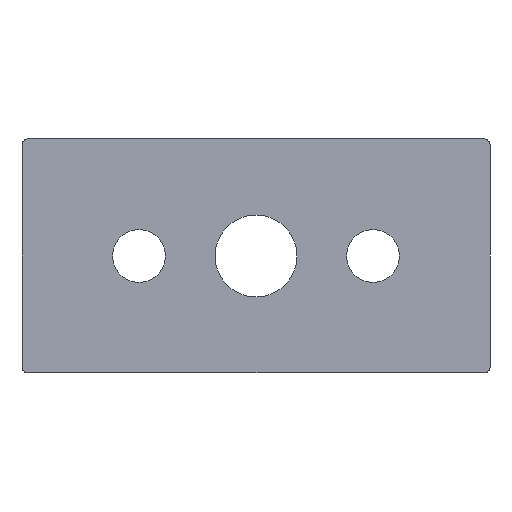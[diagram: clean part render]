
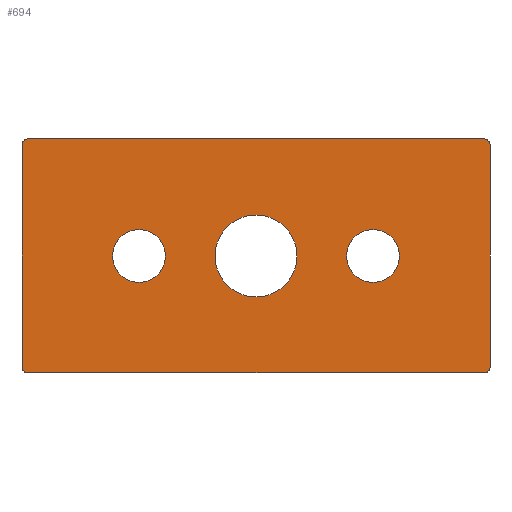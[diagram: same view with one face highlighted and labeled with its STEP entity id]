
A CAD part, front view. The second image highlights one B-rep face of the part: STEP entity #694.
In plain terms, the highlighted planar face has unit normal (0, -1, 0).
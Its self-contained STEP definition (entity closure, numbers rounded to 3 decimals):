
#16 = DIRECTION ( 'NONE',  ( 0., 1., 0. ) ) ;
#17 = EDGE_LOOP ( 'NONE', ( #726, #235 ) ) ;
#29 = DIRECTION ( 'NONE',  ( 0., 1., 0. ) ) ;
#30 = DIRECTION ( 'NONE',  ( 0., 0., -1. ) ) ;
#31 = DIRECTION ( 'NONE',  ( 0., 0., 1. ) ) ;
#44 = CARTESIAN_POINT ( 'NONE',  ( 0., 0., 0. ) ) ;
#46 = EDGE_CURVE ( 'NONE', #237, #114, #626, .T. ) ;
#54 = VERTEX_POINT ( 'NONE', #522 ) ;
#57 = CIRCLE ( 'NONE', #754, 1. ) ;
#65 = EDGE_CURVE ( 'NONE', #678, #580, #161, .T. ) ;
#67 = CARTESIAN_POINT ( 'NONE',  ( -39., 0., 19. ) ) ;
#72 = DIRECTION ( 'NONE',  ( 0., 0., -1. ) ) ;
#74 = DIRECTION ( 'NONE',  ( 0., 0., -1. ) ) ;
#76 = DIRECTION ( 'NONE',  ( 0., -1., 0. ) ) ;
#77 = AXIS2_PLACEMENT_3D ( 'NONE', #44, #76, #72 ) ;
#82 = CARTESIAN_POINT ( 'NONE',  ( -20., 0., 0. ) ) ;
#85 = DIRECTION ( 'NONE',  ( 0., -1., 0. ) ) ;
#97 = DIRECTION ( 'NONE',  ( 0., 0., -1. ) ) ;
#102 = DIRECTION ( 'NONE',  ( 0., 1., 0. ) ) ;
#110 = CARTESIAN_POINT ( 'NONE',  ( 39., 0., -19. ) ) ;
#114 = VERTEX_POINT ( 'NONE', #647 ) ;
#124 = ORIENTED_EDGE ( 'NONE', *, *, #637, .F. ) ;
#129 = CARTESIAN_POINT ( 'NONE',  ( 20., 0., -4.5 ) ) ;
#133 = AXIS2_PLACEMENT_3D ( 'NONE', #110, #326, #365 ) ;
#137 = EDGE_CURVE ( 'NONE', #666, #352, #291, .T. ) ;
#148 = CARTESIAN_POINT ( 'NONE',  ( 0., 0., 0. ) ) ;
#150 = PLANE ( 'NONE',  #288 ) ;
#161 = CIRCLE ( 'NONE', #595, 7. ) ;
#170 = ORIENTED_EDGE ( 'NONE', *, *, #236, .T. ) ;
#191 = VERTEX_POINT ( 'NONE', #720 ) ;
#194 = CARTESIAN_POINT ( 'NONE',  ( -40., 0., -19. ) ) ;
#196 = ORIENTED_EDGE ( 'NONE', *, *, #424, .F. ) ;
#199 = FACE_OUTER_BOUND ( 'NONE', #407, .T. ) ;
#204 = EDGE_CURVE ( 'NONE', #580, #678, #244, .T. ) ;
#214 = DIRECTION ( 'NONE',  ( -1., 0., 0. ) ) ;
#224 = DIRECTION ( 'NONE',  ( 0., -1., 0. ) ) ;
#227 = FACE_BOUND ( 'NONE', #252, .T. ) ;
#235 = ORIENTED_EDGE ( 'NONE', *, *, #137, .T. ) ;
#236 = EDGE_CURVE ( 'NONE', #426, #409, #519, .T. ) ;
#237 = VERTEX_POINT ( 'NONE', #194 ) ;
#244 = CIRCLE ( 'NONE', #77, 7. ) ;
#252 = EDGE_LOOP ( 'NONE', ( #429, #284 ) ) ;
#253 = CARTESIAN_POINT ( 'NONE',  ( 40., 0., -19. ) ) ;
#256 = CIRCLE ( 'NONE', #589, 1. ) ;
#262 = DIRECTION ( 'NONE',  ( 0., 0., -1. ) ) ;
#284 = ORIENTED_EDGE ( 'NONE', *, *, #466, .T. ) ;
#285 = CARTESIAN_POINT ( 'NONE',  ( 0., 0., 0. ) ) ;
#288 = AXIS2_PLACEMENT_3D ( 'NONE', #148, #85, #74 ) ;
#291 = CIRCLE ( 'NONE', #668, 4.5 ) ;
#312 = DIRECTION ( 'NONE',  ( 0., 0., 1. ) ) ;
#318 = DIRECTION ( 'NONE',  ( 0., 1., 0. ) ) ;
#319 = CARTESIAN_POINT ( 'NONE',  ( -20., 0., 0. ) ) ;
#326 = DIRECTION ( 'NONE',  ( 0., -1., 0. ) ) ;
#330 = CARTESIAN_POINT ( 'NONE',  ( -39., 0., -19. ) ) ;
#335 = CARTESIAN_POINT ( 'NONE',  ( -20., 0., -4.5 ) ) ;
#341 = CARTESIAN_POINT ( 'NONE',  ( 0., 0., -7. ) ) ;
#342 = VERTEX_POINT ( 'NONE', #129 ) ;
#347 = ORIENTED_EDGE ( 'NONE', *, *, #504, .T. ) ;
#352 = VERTEX_POINT ( 'NONE', #670 ) ;
#364 = EDGE_LOOP ( 'NONE', ( #724, #449 ) ) ;
#365 = DIRECTION ( 'NONE',  ( 0., 0., -1. ) ) ;
#367 = DIRECTION ( 'NONE',  ( 0., 0., -1. ) ) ;
#371 = DIRECTION ( 'NONE',  ( 0., -1., 0. ) ) ;
#376 = DIRECTION ( 'NONE',  ( 0., 0., 1. ) ) ;
#378 = FACE_BOUND ( 'NONE', #17, .T. ) ;
#380 = DIRECTION ( 'NONE',  ( 1., 0., 0. ) ) ;
#386 = VERTEX_POINT ( 'NONE', #591 ) ;
#390 = ORIENTED_EDGE ( 'NONE', *, *, #46, .F. ) ;
#394 = VECTOR ( 'NONE', #380, 1000. ) ;
#406 = CIRCLE ( 'NONE', #685, 4.5 ) ;
#407 = EDGE_LOOP ( 'NONE', ( #390, #483, #196, #170, #124, #615, #453, #347 ) ) ;
#409 = VERTEX_POINT ( 'NONE', #253 ) ;
#424 = EDGE_CURVE ( 'NONE', #426, #54, #727, .T. ) ;
#425 = CIRCLE ( 'NONE', #511, 4.5 ) ;
#426 = VERTEX_POINT ( 'NONE', #553 ) ;
#429 = ORIENTED_EDGE ( 'NONE', *, *, #457, .T. ) ;
#435 = CARTESIAN_POINT ( 'NONE',  ( 39., 0., 20. ) ) ;
#439 = VERTEX_POINT ( 'NONE', #435 ) ;
#448 = CARTESIAN_POINT ( 'NONE',  ( -40., 0., -20. ) ) ;
#449 = ORIENTED_EDGE ( 'NONE', *, *, #65, .F. ) ;
#453 = ORIENTED_EDGE ( 'NONE', *, *, #543, .F. ) ;
#457 = EDGE_CURVE ( 'NONE', #571, #342, #699, .T. ) ;
#466 = EDGE_CURVE ( 'NONE', #342, #571, #425, .T. ) ;
#473 = AXIS2_PLACEMENT_3D ( 'NONE', #665, #16, #729 ) ;
#483 = ORIENTED_EDGE ( 'NONE', *, *, #620, .T. ) ;
#495 = FACE_BOUND ( 'NONE', #364, .T. ) ;
#498 = CARTESIAN_POINT ( 'NONE',  ( 20., 0., 0. ) ) ;
#504 = EDGE_CURVE ( 'NONE', #191, #114, #256, .T. ) ;
#511 = AXIS2_PLACEMENT_3D ( 'NONE', #498, #102, #638 ) ;
#519 = CIRCLE ( 'NONE', #133, 1. ) ;
#522 = CARTESIAN_POINT ( 'NONE',  ( -39., 0., -20. ) ) ;
#528 = CIRCLE ( 'NONE', #664, 1. ) ;
#531 = VECTOR ( 'NONE', #30, 1000. ) ;
#533 = CARTESIAN_POINT ( 'NONE',  ( -40., 0., 20. ) ) ;
#543 = EDGE_CURVE ( 'NONE', #191, #439, #682, .T. ) ;
#547 = CARTESIAN_POINT ( 'NONE',  ( 40., 0., 20. ) ) ;
#550 = EDGE_CURVE ( 'NONE', #386, #439, #528, .T. ) ;
#553 = CARTESIAN_POINT ( 'NONE',  ( 39., 0., -20. ) ) ;
#555 = DIRECTION ( 'NONE',  ( 0., -1., 0. ) ) ;
#561 = CARTESIAN_POINT ( 'NONE',  ( 39., 0., 19. ) ) ;
#570 = VECTOR ( 'NONE', #214, 1000. ) ;
#571 = VERTEX_POINT ( 'NONE', #594 ) ;
#580 = VERTEX_POINT ( 'NONE', #618 ) ;
#589 = AXIS2_PLACEMENT_3D ( 'NONE', #67, #743, #733 ) ;
#591 = CARTESIAN_POINT ( 'NONE',  ( 40., 0., 19. ) ) ;
#594 = CARTESIAN_POINT ( 'NONE',  ( 20., 0., 4.5 ) ) ;
#595 = AXIS2_PLACEMENT_3D ( 'NONE', #285, #224, #262 ) ;
#615 = ORIENTED_EDGE ( 'NONE', *, *, #550, .T. ) ;
#618 = CARTESIAN_POINT ( 'NONE',  ( 0., 0., 7. ) ) ;
#620 = EDGE_CURVE ( 'NONE', #237, #54, #57, .T. ) ;
#626 = LINE ( 'NONE', #533, #677 ) ;
#637 = EDGE_CURVE ( 'NONE', #386, #409, #695, .T. ) ;
#638 = DIRECTION ( 'NONE',  ( 0., 0., 1. ) ) ;
#647 = CARTESIAN_POINT ( 'NONE',  ( -40., 0., 19. ) ) ;
#664 = AXIS2_PLACEMENT_3D ( 'NONE', #561, #555, #97 ) ;
#665 = CARTESIAN_POINT ( 'NONE',  ( 20., 0., 0. ) ) ;
#666 = VERTEX_POINT ( 'NONE', #335 ) ;
#668 = AXIS2_PLACEMENT_3D ( 'NONE', #82, #29, #31 ) ;
#670 = CARTESIAN_POINT ( 'NONE',  ( -20., 0., 4.5 ) ) ;
#671 = CARTESIAN_POINT ( 'NONE',  ( -40., 0., 20. ) ) ;
#677 = VECTOR ( 'NONE', #376, 1000. ) ;
#678 = VERTEX_POINT ( 'NONE', #341 ) ;
#682 = LINE ( 'NONE', #671, #394 ) ;
#685 = AXIS2_PLACEMENT_3D ( 'NONE', #319, #318, #312 ) ;
#694 = ADVANCED_FACE ( 'NONE', ( #227, #378, #495, #199 ), #150, .T. ) ;
#695 = LINE ( 'NONE', #547, #531 ) ;
#699 = CIRCLE ( 'NONE', #473, 4.5 ) ;
#720 = CARTESIAN_POINT ( 'NONE',  ( -39., 0., 20. ) ) ;
#724 = ORIENTED_EDGE ( 'NONE', *, *, #204, .F. ) ;
#726 = ORIENTED_EDGE ( 'NONE', *, *, #747, .T. ) ;
#727 = LINE ( 'NONE', #448, #570 ) ;
#729 = DIRECTION ( 'NONE',  ( 0., 0., 1. ) ) ;
#733 = DIRECTION ( 'NONE',  ( 0., 0., -1. ) ) ;
#743 = DIRECTION ( 'NONE',  ( 0., -1., 0. ) ) ;
#747 = EDGE_CURVE ( 'NONE', #352, #666, #406, .T. ) ;
#754 = AXIS2_PLACEMENT_3D ( 'NONE', #330, #371, #367 ) ;
